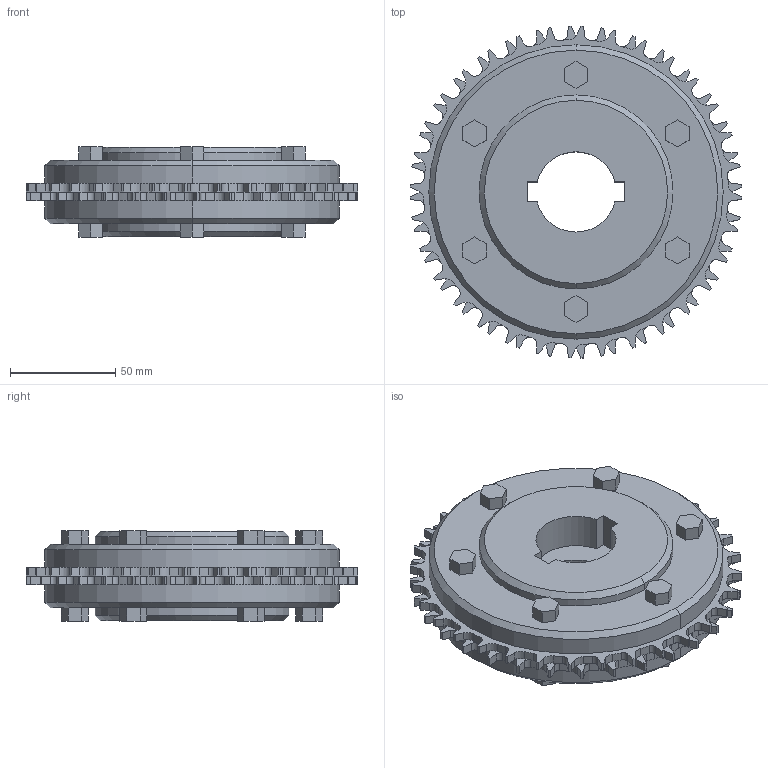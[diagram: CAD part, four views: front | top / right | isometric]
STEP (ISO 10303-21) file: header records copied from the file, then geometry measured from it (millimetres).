
FILE_DESCRIPTION((''),'2;1');
FILE_NAME('S1100_SPL_METAL_61_ROUND_ASM','2008-12-12T',('jmumphre'),(''),'PRO/ENGINEER BY PARAMETRIC TECHNOLOGY CORPORATION, 2008150','PRO/ENGINEER BY PARAMETRIC TECHNOLOGY CORPORATION, 2008150','');
FILE_SCHEMA(('CONFIG_CONTROL_DESIGN'));
Length unit declared in the file: inch
Products named in the file (6): JOINING_PLATE_6_ROUND_AF10; JOINING_PLATE_6_ROUND_AF11; S1100_TP_METAL_61X254_SQ_AF2; S1100_TP_METAL_61X254_SQ_AF3; BOLTS_N_NUTS_4-376X1-188_AF0; S1100_SPL_METAL_61_ROUND_ASM
Assembly tree (5 placements, depth 2):
  S1100_SPL_METAL_61_ROUND_ASM
    JOINING_PLATE_6_ROUND_AF10
    JOINING_PLATE_6_ROUND_AF11
    S1100_TP_METAL_61X254_SQ_AF2
    S1100_TP_METAL_61X254_SQ_AF3
    BOLTS_N_NUTS_4-376X1-188_AF0
Bounding box: 157.61 x 157.61 x 42.88 mm (x, y, z)
Volume: 485751.4 mm3; surface area: 143041 mm2
Topology: 10 solids, 10 shells, 614 faces, 1732 edges, 1152 vertices
Faces by surface type: plane 318, cylinder 288, cone 8
Entity records: 20259 total; most frequent: DIRECTION 3566, CARTESIAN_POINT 3509, ORIENTED_EDGE 3464, EDGE_CURVE 1732, AXIS2_PLACEMENT_3D 1209, VERTEX_POINT 1152, VECTOR 1148, LINE 1148
